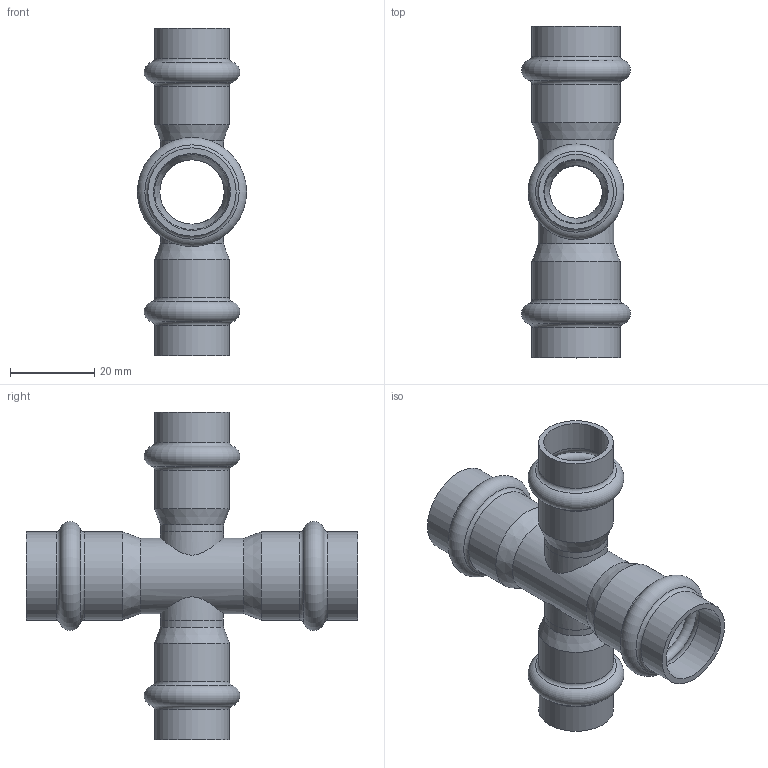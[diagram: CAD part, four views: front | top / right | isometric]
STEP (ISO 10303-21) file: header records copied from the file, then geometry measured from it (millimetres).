
FILE_DESCRIPTION(('STEP AP203'), '1');
FILE_NAME('ÂÐ.302669.006.000 ÑÁ - VTi.941.I.001815 Êðåñò. Äó15-18', '2024-02-29T12:42:00', ('User'), ('Vesta'), 'C3D Converter', 'C3D Toolkit', '');
FILE_SCHEMA(('CONFIG_CONTROL_DESIGN'));
Length unit declared in the file: millimetre
Products named in the file (5): ВР.302669.006.000 СБ; ВР.735542.006-01; ВР.735542.001
Assembly tree (7 placements, depth 2):
  ВР.302669.006.000 СБ
    ВР.735542.006-01
    ВР.735542.001  x2
    (unnamed)  x2
    (unnamed)  x2
Bounding box: 25.99 x 79 x 78 mm (x, y, z)
Volume: 12147.5 mm3; surface area: 19133.7 mm2
Topology: 7 solids, 7 shells, 70 faces, 138 edges, 74 vertices
Faces by surface type: torus 28, cylinder 26, plane 8, cone 8
Full cylindrical faces by diameter (mm): 12.5 x4, 15 x4, 15.3 x5, 17.8 x4, 18 x1, 18.3 x4, 21 x4
Entity records: 2863 total; most frequent: CARTESIAN_POINT 1193, DIRECTION 216, AXIS2_PLACEMENT_3D 108, ORIENTED_EDGE 108, EDGE_LOOP 104, FACE_OUTER_BOUND 86, COLOUR_RGB 56, FILL_AREA_STYLE_COLOUR 56
